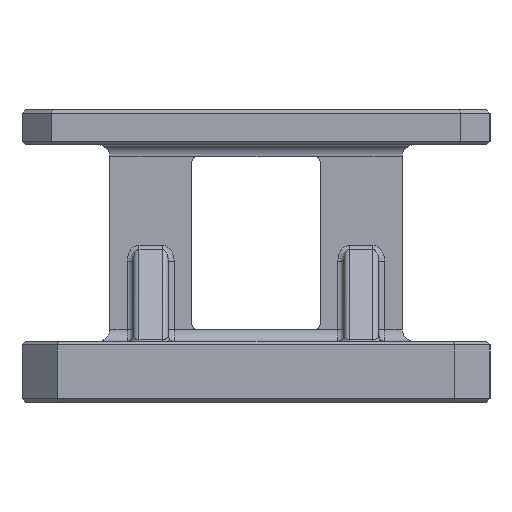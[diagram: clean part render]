
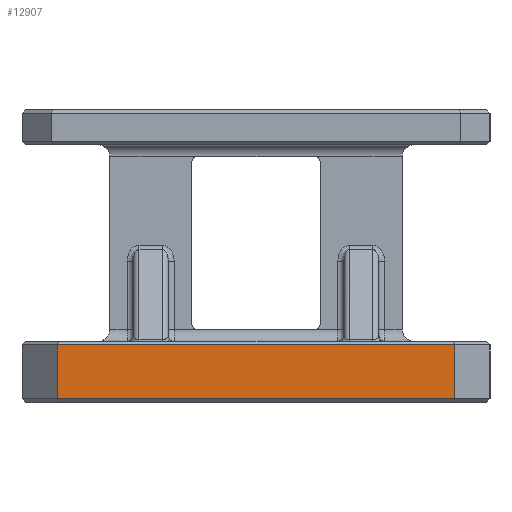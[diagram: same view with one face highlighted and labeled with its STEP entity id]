
A CAD part, left-side view. The second image highlights one B-rep face of the part: STEP entity #12907.
In plain terms, the highlighted planar face has unit normal (-1, 0, 0).
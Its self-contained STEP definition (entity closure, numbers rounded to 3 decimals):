
#1187=DIRECTION('',(0.,1.,0.));
#1188=VECTOR('',#1187,340.);
#1189=CARTESIAN_POINT('',(-400.,-170.,-23.));
#1190=LINE('',#1189,#1188);
#1191=DIRECTION('',(0.,0.,-1.));
#1192=VECTOR('',#1191,46.);
#1193=CARTESIAN_POINT('',(-400.,170.,23.));
#1194=LINE('',#1193,#1192);
#1195=DIRECTION('',(0.,-1.,0.));
#1196=VECTOR('',#1195,340.);
#1197=CARTESIAN_POINT('',(-400.,170.,23.));
#1198=LINE('',#1197,#1196);
#1199=DIRECTION('',(0.,0.,-1.));
#1200=VECTOR('',#1199,46.);
#1201=CARTESIAN_POINT('',(-400.,-170.,23.));
#1202=LINE('',#1201,#1200);
#9503=CARTESIAN_POINT('',(-400.,-170.,-23.));
#9504=CARTESIAN_POINT('',(-400.,170.,-23.));
#9505=VERTEX_POINT('',#9503);
#9506=VERTEX_POINT('',#9504);
#9565=CARTESIAN_POINT('',(-400.,170.,23.));
#9566=VERTEX_POINT('',#9565);
#9575=CARTESIAN_POINT('',(-400.,-170.,23.));
#9576=VERTEX_POINT('',#9575);
#12895=CARTESIAN_POINT('',(-400.,200.,-26.));
#12896=DIRECTION('',(-1.,0.,0.));
#12897=DIRECTION('',(0.,-1.,0.));
#12898=AXIS2_PLACEMENT_3D('',#12895,#12896,#12897);
#12899=PLANE('',#12898);
#12900=ORIENTED_EDGE('',*,*,#12705,.T.);
#12901=ORIENTED_EDGE('',*,*,#12736,.F.);
#12903=ORIENTED_EDGE('',*,*,#12902,.T.);
#12904=ORIENTED_EDGE('',*,*,#12875,.T.);
#12905=EDGE_LOOP('',(#12900,#12901,#12903,#12904));
#12906=FACE_OUTER_BOUND('',#12905,.F.);
#12907=ADVANCED_FACE('',(#12906),#12899,.T.);
#12705=EDGE_CURVE('',#9505,#9506,#1190,.T.);
#12736=EDGE_CURVE('',#9566,#9506,#1194,.T.);
#12875=EDGE_CURVE('',#9576,#9505,#1202,.T.);
#12902=EDGE_CURVE('',#9566,#9576,#1198,.T.);
